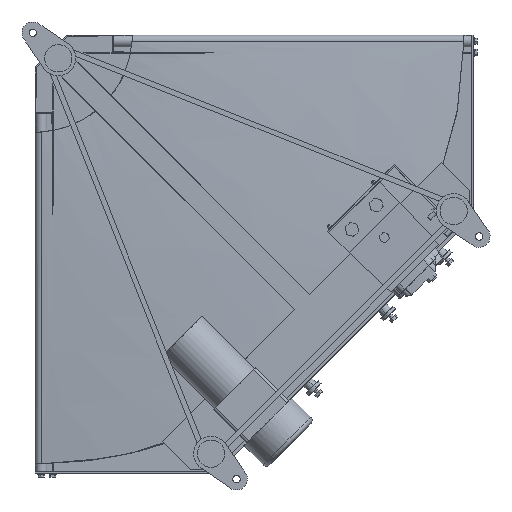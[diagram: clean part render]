
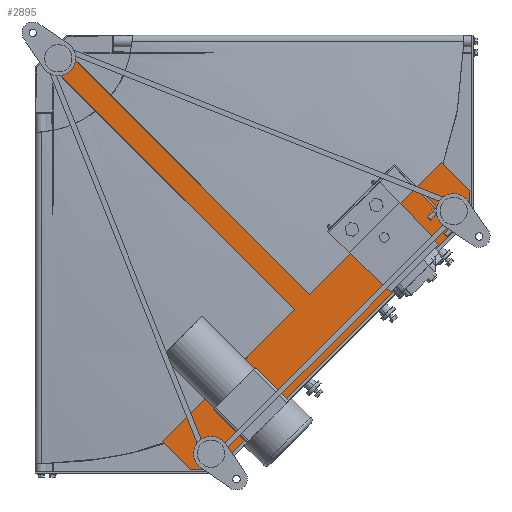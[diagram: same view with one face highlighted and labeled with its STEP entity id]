
A CAD part, front view. The second image highlights one B-rep face of the part: STEP entity #2895.
In plain terms, the highlighted planar face has unit normal (0, -1, 0).
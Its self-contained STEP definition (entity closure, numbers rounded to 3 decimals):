
#84 = AXIS2_PLACEMENT_3D ( 'NONE', #37870, #38376, #16984 ) ;
#519 = CARTESIAN_POINT ( 'NONE',  ( 271.529, -167.5, -759.433 ) ) ;
#617 = VERTEX_POINT ( 'NONE', #30778 ) ;
#889 = VERTEX_POINT ( 'NONE', #3289 ) ;
#1122 = CARTESIAN_POINT ( 'NONE',  ( 313.955, -167.5, -759.433 ) ) ;
#1212 = DIRECTION ( 'NONE',  ( -0.707, 0., 0.707 ) ) ;
#1376 = VECTOR ( 'NONE', #10543, 1000. ) ;
#2201 = EDGE_CURVE ( 'NONE', #889, #18124, #17397, .T. ) ;
#2264 = ORIENTED_EDGE ( 'NONE', *, *, #15346, .F. ) ;
#2895 = ADVANCED_FACE ( 'NONE', ( #5082 ), #35078, .T. ) ;
#3289 = CARTESIAN_POINT ( 'NONE',  ( 42.073, -167.5, -15.203 ) ) ;
#3563 = ORIENTED_EDGE ( 'NONE', *, *, #29199, .F. ) ;
#3878 = VECTOR ( 'NONE', #27293, 1000. ) ;
#4778 = CARTESIAN_POINT ( 'NONE',  ( 222.032, -167.5, -709.935 ) ) ;
#4879 = CARTESIAN_POINT ( 'NONE',  ( 15.203, -167.5, -42.073 ) ) ;
#5082 = FACE_OUTER_BOUND ( 'NONE', #9663, .T. ) ;
#5203 = CARTESIAN_POINT ( 'NONE',  ( 222.032, -167.5, -709.935 ) ) ;
#6167 = ORIENTED_EDGE ( 'NONE', *, *, #2201, .F. ) ;
#6466 = ORIENTED_EDGE ( 'NONE', *, *, #17438, .F. ) ;
#6748 = VECTOR ( 'NONE', #1212, 1000. ) ;
#7741 = CARTESIAN_POINT ( 'NONE',  ( 479.418, -167.5, -452.548 ) ) ;
#8395 = VECTOR ( 'NONE', #17694, 1000. ) ;
#9624 = LINE ( 'NONE', #30409, #23770 ) ;
#9663 = EDGE_LOOP ( 'NONE', ( #13183, #25806, #25935, #28933, #3563, #26872, #12829, #2264, #6167, #6466 ) ) ;
#10506 = LINE ( 'NONE', #10536, #31720 ) ;
#10536 = CARTESIAN_POINT ( 'NONE',  ( 759.433, -167.5, -313.955 ) ) ;
#10543 = DIRECTION ( 'NONE',  ( 0.707, 0., -0.707 ) ) ;
#10674 = CARTESIAN_POINT ( 'NONE',  ( 42.073, -167.5, -15.203 ) ) ;
#12115 = LINE ( 'NONE', #28047, #15414 ) ;
#12578 = EDGE_CURVE ( 'NONE', #30119, #35928, #24059, .T. ) ;
#12829 = ORIENTED_EDGE ( 'NONE', *, *, #34629, .F. ) ;
#13183 = ORIENTED_EDGE ( 'NONE', *, *, #34800, .F. ) ;
#13573 = DIRECTION ( 'NONE',  ( 0., 0., -1. ) ) ;
#14553 = EDGE_CURVE ( 'NONE', #22644, #19811, #10506, .T. ) ;
#15346 = EDGE_CURVE ( 'NONE', #18124, #23846, #20335, .T. ) ;
#15414 = VECTOR ( 'NONE', #21609, 1000. ) ;
#15680 = VERTEX_POINT ( 'NONE', #27577 ) ;
#15774 = CARTESIAN_POINT ( 'NONE',  ( 15.203, -167.5, -42.073 ) ) ;
#16114 = LINE ( 'NONE', #27040, #3878 ) ;
#16984 = DIRECTION ( 'NONE',  ( 0., 0., -1. ) ) ;
#17397 = LINE ( 'NONE', #10674, #1376 ) ;
#17438 = EDGE_CURVE ( 'NONE', #18096, #889, #37675, .T. ) ;
#17694 = DIRECTION ( 'NONE',  ( 0.707, 0., 0.707 ) ) ;
#18096 = VERTEX_POINT ( 'NONE', #15774 ) ;
#18124 = VERTEX_POINT ( 'NONE', #7741 ) ;
#18961 = DIRECTION ( 'NONE',  ( -1., 0., 0. ) ) ;
#19811 = VERTEX_POINT ( 'NONE', #23931 ) ;
#20335 = LINE ( 'NONE', #5203, #28358 ) ;
#20621 = EDGE_CURVE ( 'NONE', #35928, #617, #38823, .T. ) ;
#21609 = DIRECTION ( 'NONE',  ( 0.707, 0., 0.707 ) ) ;
#22644 = VERTEX_POINT ( 'NONE', #29748 ) ;
#22850 = VECTOR ( 'NONE', #37995, 1000. ) ;
#23770 = VECTOR ( 'NONE', #25436, 1000. ) ;
#23846 = VERTEX_POINT ( 'NONE', #24372 ) ;
#23931 = CARTESIAN_POINT ( 'NONE',  ( 759.433, -167.5, -313.955 ) ) ;
#24059 = LINE ( 'NONE', #519, #32045 ) ;
#24372 = CARTESIAN_POINT ( 'NONE',  ( 709.935, -167.5, -222.032 ) ) ;
#25436 = DIRECTION ( 'NONE',  ( 0.707, 0., -0.707 ) ) ;
#25806 = ORIENTED_EDGE ( 'NONE', *, *, #32190, .F. ) ;
#25935 = ORIENTED_EDGE ( 'NONE', *, *, #20621, .F. ) ;
#26872 = ORIENTED_EDGE ( 'NONE', *, *, #14553, .F. ) ;
#27040 = CARTESIAN_POINT ( 'NONE',  ( 313.955, -167.5, -759.433 ) ) ;
#27293 = DIRECTION ( 'NONE',  ( -0.707, 0., -0.707 ) ) ;
#27577 = CARTESIAN_POINT ( 'NONE',  ( 452.548, -167.5, -479.418 ) ) ;
#28047 = CARTESIAN_POINT ( 'NONE',  ( 222.032, -167.5, -709.935 ) ) ;
#28358 = VECTOR ( 'NONE', #38448, 1000. ) ;
#28933 = ORIENTED_EDGE ( 'NONE', *, *, #12578, .F. ) ;
#29199 = EDGE_CURVE ( 'NONE', #19811, #30119, #16114, .T. ) ;
#29748 = CARTESIAN_POINT ( 'NONE',  ( 759.433, -167.5, -271.529 ) ) ;
#30119 = VERTEX_POINT ( 'NONE', #1122 ) ;
#30409 = CARTESIAN_POINT ( 'NONE',  ( 709.935, -167.5, -222.032 ) ) ;
#30778 = CARTESIAN_POINT ( 'NONE',  ( 222.032, -167.5, -709.935 ) ) ;
#31720 = VECTOR ( 'NONE', #13573, 1000. ) ;
#32045 = VECTOR ( 'NONE', #18961, 1000. ) ;
#32190 = EDGE_CURVE ( 'NONE', #617, #15680, #12115, .T. ) ;
#32705 = CARTESIAN_POINT ( 'NONE',  ( 271.529, -167.5, -759.433 ) ) ;
#33700 = LINE ( 'NONE', #4879, #22850 ) ;
#34629 = EDGE_CURVE ( 'NONE', #23846, #22644, #9624, .T. ) ;
#34800 = EDGE_CURVE ( 'NONE', #15680, #18096, #33700, .T. ) ;
#35078 = PLANE ( 'NONE',  #84 ) ;
#35776 = CARTESIAN_POINT ( 'NONE',  ( 15.203, -167.5, -42.073 ) ) ;
#35928 = VERTEX_POINT ( 'NONE', #32705 ) ;
#37675 = LINE ( 'NONE', #35776, #8395 ) ;
#37870 = CARTESIAN_POINT ( 'NONE',  ( 0., -167.5, 0. ) ) ;
#37995 = DIRECTION ( 'NONE',  ( -0.707, 0., 0.707 ) ) ;
#38376 = DIRECTION ( 'NONE',  ( 0., -1., 0. ) ) ;
#38448 = DIRECTION ( 'NONE',  ( 0.707, 0., 0.707 ) ) ;
#38823 = LINE ( 'NONE', #4778, #6748 ) ;
